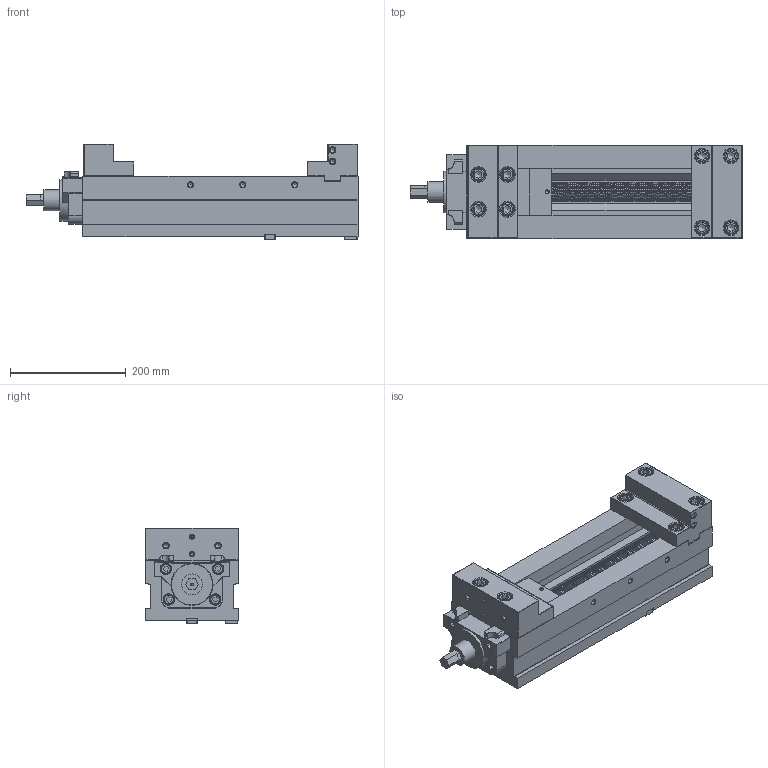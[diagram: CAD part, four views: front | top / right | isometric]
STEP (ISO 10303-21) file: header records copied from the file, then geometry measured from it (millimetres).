
FILE_DESCRIPTION(('STEP AP214'), '1');
FILE_NAME('BB.VS.160.11.001 捘', '', ('UNSPECIFIED'), ('UNSPECIFIED'), 'ASCON STEP Converter 1.6', 'ASCON Math Kernel', '');
FILE_SCHEMA(('AUTOMOTIVE_DESIGN { 1 0 10303 214 3 1 1}'));
Length unit declared in the file: millimetre
Products named in the file (12): BB.VS.160.11.001 捘; BB.VS.160.11.001-001; BB.VS.160.11.001/003; BB.VS.160.21.030/001; BB.VS.160.21.030/002; BB.VS.160.11.001/004; BB.VS.160.11.001/005; BB.VS.100.82.018; BB.VS.160.11.001/002
Assembly tree (19 placements, depth 2):
  BB.VS.160.11.001 捘
    BB.VS.160.11.001-001
    BB.VS.160.11.001/003
    BB.VS.160.21.030/001
    BB.VS.160.21.030/002
    BB.VS.160.11.001/004
    BB.VS.160.11.001/005
    (unnamed)  x4
    (unnamed)  x4
    BB.VS.100.82.018  x2
    (unnamed)  x2
    BB.VS.160.11.001/002
Bounding box: 573 x 161 x 165 mm (x, y, z)
Volume: 6884319.6 mm3; surface area: 803312.1 mm2
Topology: 23 solids, 25 shells, 1175 faces, 4060 edges, 2962 vertices
Faces by surface type: plane 535, cylinder 445, cone 127, torus 52, sphere 8, bspline 8
Full cylindrical faces by diameter (mm): 3.3 x2, 3.63 x1, 4.2 x1, 4.917 x8, 5 x2, 5.3 x1, 6 x3, 6.6 x2, 8 x2, 8.376 x14, 8.5 x6, 10 x6, 10.2 x8, 11 x6, 11.835 x8, 14 x8, 16 x12, 18 x4, 21 x8, 22 x1, 23.1 x1, 24 x8, 29 x1, 36 x1, 47 x4, 49.5 x2, 54 x1, 55 x1, 59 x1, 72 x1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
Entity records: 165733 total; most frequent: CARTESIAN_POINT 128134, ORIENTED_EDGE 6958, DIRECTION 4266, EDGE_CURVE 3479, VERTEX_POINT 2740, B_SPLINE_CURVE_WITH_KNOTS 1740, AXIS2_PLACEMENT_3D 1501, EDGE_LOOP 1339
